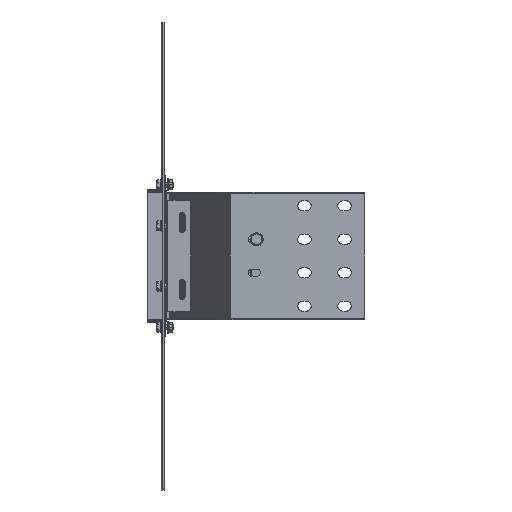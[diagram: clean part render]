
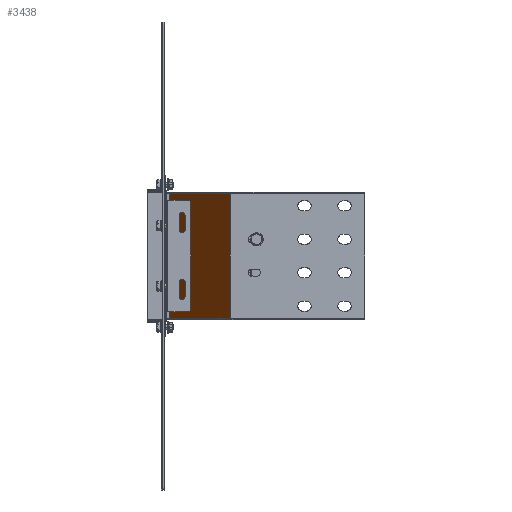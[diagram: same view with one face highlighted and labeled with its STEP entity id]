
A CAD part, front view. The second image highlights one B-rep face of the part: STEP entity #3438.
In plain terms, the highlighted planar face has unit normal (-0.918, -0.398, 0).
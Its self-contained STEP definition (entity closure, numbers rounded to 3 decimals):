
#3430=AXIS2_PLACEMENT_3D('Plane Axis2P3D',#3427,#3428,#3429) ;
#1842=CARTESIAN_POINT('Vertex',(98.654,-217.05,-92.95)) ;
#1856=CARTESIAN_POINT('Vertex',(98.654,-217.05,92.95)) ;
#1859=CARTESIAN_POINT('Line Origine',(98.654,-217.05,0.)) ;
#2644=CARTESIAN_POINT('Vertex',(8.654,-9.34,92.95)) ;
#2647=CARTESIAN_POINT('Line Origine',(53.119,-111.96,92.95)) ;
#2754=CARTESIAN_POINT('Vertex',(8.654,-9.34,-92.95)) ;
#2789=CARTESIAN_POINT('Line Origine',(53.119,-111.96,-92.95)) ;
#2831=CARTESIAN_POINT('Line Origine',(8.654,-9.34,0.)) ;
#3427=CARTESIAN_POINT('Axis2P3D Location',(99.189,-218.285,-92.95)) ;
#1860=DIRECTION('Vector Direction',(0.,0.,1.)) ;
#2648=DIRECTION('Vector Direction',(0.398,-0.918,0.)) ;
#2790=DIRECTION('Vector Direction',(0.398,-0.918,0.)) ;
#2832=DIRECTION('Vector Direction',(0.,0.,1.)) ;
#3428=DIRECTION('Axis2P3D Direction',(-0.918,-0.398,0.)) ;
#3429=DIRECTION('Axis2P3D XDirection',(0.,0.,1.)) ;
#1861=VECTOR('Line Direction',#1860,1.) ;
#2649=VECTOR('Line Direction',#2648,1.) ;
#2791=VECTOR('Line Direction',#2790,1.) ;
#2833=VECTOR('Line Direction',#2832,1.) ;
#3433=ORIENTED_EDGE('',*,*,#2651,.T.) ;
#3434=ORIENTED_EDGE('',*,*,#2835,.F.) ;
#3435=ORIENTED_EDGE('',*,*,#2793,.F.) ;
#3436=ORIENTED_EDGE('',*,*,#1863,.T.) ;
#3438=ADVANCED_FACE('N',(#3437),#3431,.T.) ;
#1863=EDGE_CURVE('',#1843,#1857,#1862,.T.) ;
#2651=EDGE_CURVE('',#1857,#2645,#2650,.F.) ;
#2793=EDGE_CURVE('',#1843,#2755,#2792,.F.) ;
#2835=EDGE_CURVE('',#2755,#2645,#2834,.T.) ;
#3432=EDGE_LOOP('',(#3433,#3434,#3435,#3436)) ;
#3437=FACE_OUTER_BOUND('',#3432,.T.) ;
#1862=LINE('Line',#1859,#1861) ;
#2650=LINE('Line',#2647,#2649) ;
#2792=LINE('Line',#2789,#2791) ;
#2834=LINE('Line',#2831,#2833) ;
#3431=PLANE('',#3430) ;
#1843=VERTEX_POINT('',#1842) ;
#1857=VERTEX_POINT('',#1856) ;
#2645=VERTEX_POINT('',#2644) ;
#2755=VERTEX_POINT('',#2754) ;
